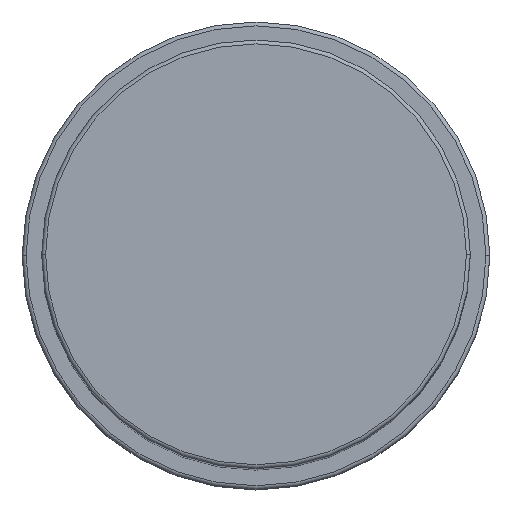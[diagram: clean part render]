
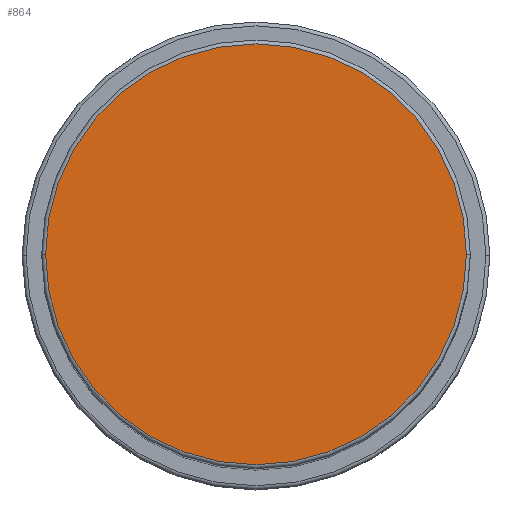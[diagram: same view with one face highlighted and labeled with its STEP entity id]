
A CAD part, top view. The second image highlights one B-rep face of the part: STEP entity #864.
In plain terms, the highlighted planar face has unit normal (0, 0, 1).
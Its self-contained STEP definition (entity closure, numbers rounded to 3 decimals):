
#10 = VERTEX_POINT ( 'NONE', #546 ) ;
#78 = DIRECTION ( 'NONE',  ( 0., 0., 1. ) ) ;
#100 = DIRECTION ( 'NONE',  ( 1., 0., 0. ) ) ;
#308 = EDGE_CURVE ( 'NONE', #533, #10, #1475, .T. ) ;
#312 = CARTESIAN_POINT ( 'NONE',  ( 0., 0., 123. ) ) ;
#353 = ORIENTED_EDGE ( 'NONE', *, *, #308, .T. ) ;
#445 = DIRECTION ( 'NONE',  ( 1., 0., 0. ) ) ;
#533 = VERTEX_POINT ( 'NONE', #1407 ) ;
#546 = CARTESIAN_POINT ( 'NONE',  ( 27., 0., 123. ) ) ;
#565 = EDGE_LOOP ( 'NONE', ( #1477, #353 ) ) ;
#569 = DIRECTION ( 'NONE',  ( 0., 0., 1. ) ) ;
#606 = DIRECTION ( 'NONE',  ( 0., 0., 1. ) ) ;
#611 = CARTESIAN_POINT ( 'NONE',  ( 0., 0., 123. ) ) ;
#702 = CARTESIAN_POINT ( 'NONE',  ( 0., 0., 123. ) ) ;
#761 = CIRCLE ( 'NONE', #1463, 27. ) ;
#772 = AXIS2_PLACEMENT_3D ( 'NONE', #611, #606, #100 ) ;
#832 = EDGE_CURVE ( 'NONE', #10, #533, #761, .T. ) ;
#864 = ADVANCED_FACE ( 'NONE', ( #1100 ), #1489, .T. ) ;
#1095 = DIRECTION ( 'NONE',  ( 1., 0., 0. ) ) ;
#1100 = FACE_OUTER_BOUND ( 'NONE', #565, .T. ) ;
#1407 = CARTESIAN_POINT ( 'NONE',  ( -27., 0., 123. ) ) ;
#1463 = AXIS2_PLACEMENT_3D ( 'NONE', #312, #569, #445 ) ;
#1475 = CIRCLE ( 'NONE', #1624, 27. ) ;
#1477 = ORIENTED_EDGE ( 'NONE', *, *, #832, .T. ) ;
#1489 = PLANE ( 'NONE',  #772 ) ;
#1624 = AXIS2_PLACEMENT_3D ( 'NONE', #702, #78, #1095 ) ;
